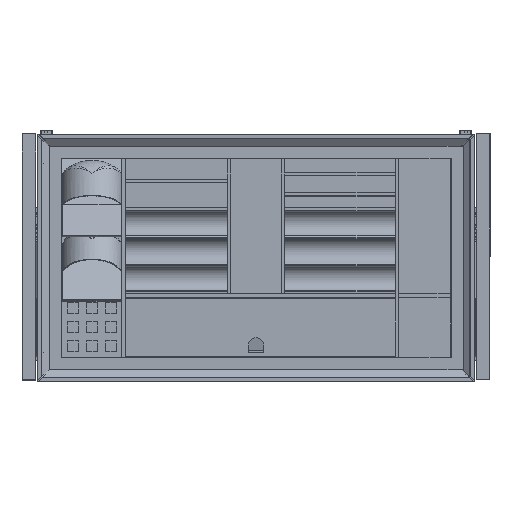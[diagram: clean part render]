
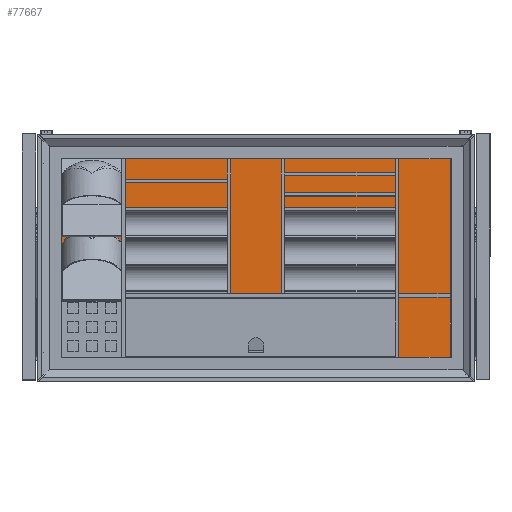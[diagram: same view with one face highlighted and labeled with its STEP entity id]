
A CAD part, top view. The second image highlights one B-rep face of the part: STEP entity #77667.
In plain terms, the highlighted planar face has unit normal (0, 0, 1).
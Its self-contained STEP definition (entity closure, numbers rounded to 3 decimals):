
#6275=ORIENTED_EDGE('',*,*,#29774,.F.);
#6276=ORIENTED_EDGE('',*,*,#29777,.T.);
#6277=ORIENTED_EDGE('',*,*,#29779,.T.);
#6278=ORIENTED_EDGE('',*,*,#29780,.F.);
#29774=EDGE_CURVE('',#41534,#41535,#48821,.T.);
#29777=EDGE_CURVE('',#41534,#41536,#48824,.T.);
#29779=EDGE_CURVE('',#41536,#41537,#48826,.T.);
#29780=EDGE_CURVE('',#41535,#41537,#48827,.T.);
#41534=VERTEX_POINT('',#115583);
#41535=VERTEX_POINT('',#115585);
#41536=VERTEX_POINT('',#115589);
#41537=VERTEX_POINT('',#115593);
#48821=LINE('',#115584,#56970);
#48824=LINE('',#115590,#56973);
#48826=LINE('',#115594,#56975);
#48827=LINE('',#115596,#56976);
#56970=VECTOR('',#91121,1000.);
#56973=VECTOR('',#91126,1000.);
#56975=VECTOR('',#91130,1000.);
#56976=VECTOR('',#91133,1000.);
#65107=EDGE_LOOP('',(#6275,#6276,#6277,#6278));
#70166=FACE_BOUND('',#65107,.T.);
#75223=PLANE('',#82929);
#77667=ADVANCED_FACE('',(#70166),#75223,.T.);
#82929=AXIS2_PLACEMENT_3D('',#115597,#91134,#91135);
#91121=DIRECTION('',(-1.,0.,0.));
#91126=DIRECTION('',(0.,1.,0.));
#91130=DIRECTION('',(-1.,0.,0.));
#91133=DIRECTION('',(0.,1.,0.));
#91134=DIRECTION('',(0.,0.,1.));
#91135=DIRECTION('',(1.,0.,0.));
#115583=CARTESIAN_POINT('',(358.,-183.5,8.4));
#115584=CARTESIAN_POINT('',(0.,-183.5,8.4));
#115585=CARTESIAN_POINT('',(-358.,-183.5,8.4));
#115589=CARTESIAN_POINT('',(358.,183.5,8.4));
#115590=CARTESIAN_POINT('',(358.,0.,8.4));
#115593=CARTESIAN_POINT('',(-358.,183.5,8.4));
#115594=CARTESIAN_POINT('',(0.,183.5,8.4));
#115596=CARTESIAN_POINT('',(-358.,0.,8.4));
#115597=CARTESIAN_POINT('',(0.,0.,8.4));
